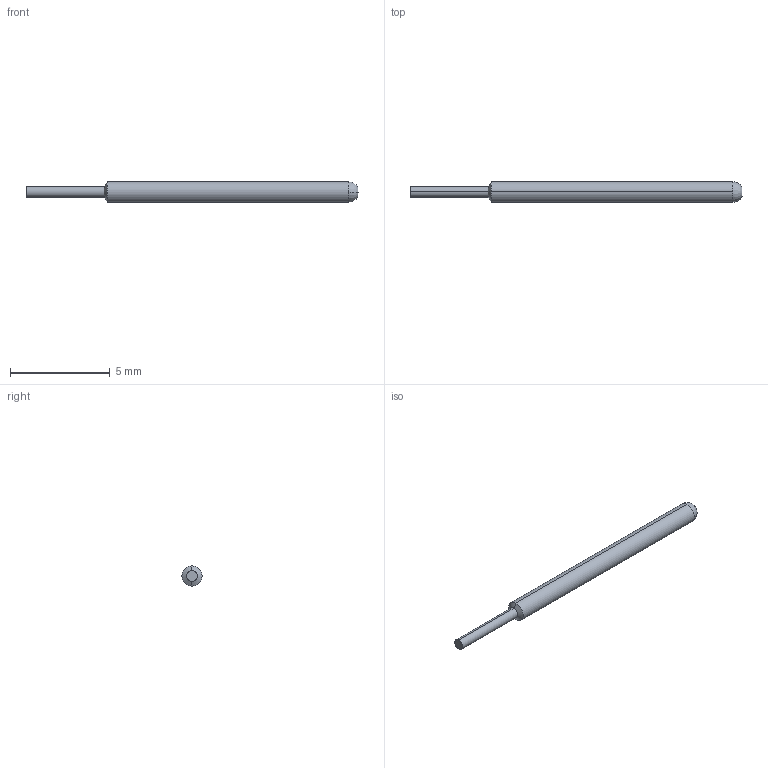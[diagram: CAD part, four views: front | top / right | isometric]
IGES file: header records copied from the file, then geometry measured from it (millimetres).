
Start section: SolidWorks IGES file using analytic representation for surfaces
Global section: file name: Z:\probe solid model mockups\Solidworks models\IGES Files\HPA-1\HPA-1C.IGS; native system: SolidWorks 2006 by SolidWorks Corporation; preprocessor: SolidWorks 2006 by SolidWorks Corporation; author: tsakatani; date: 071220.111752; units: inch
Bounding box: 16.64 x 1.02 x 1.02 mm (x, y, z)
Surface area: 47.8 mm2 (no closed solid volume)
Topology: 0 solids, 0 shells, 10 faces, 68 edges, 68 vertices
Faces by surface type: revolution 8, bspline 2
